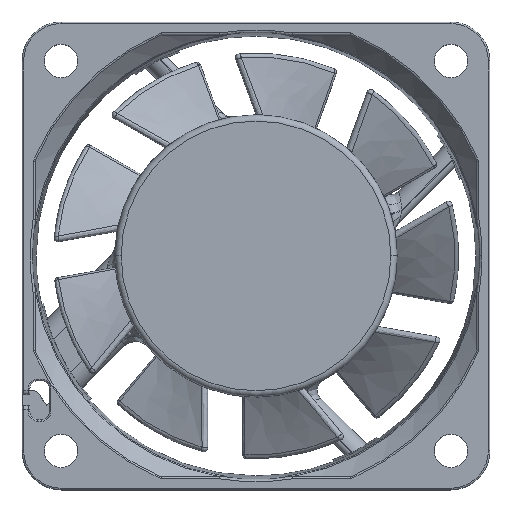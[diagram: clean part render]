
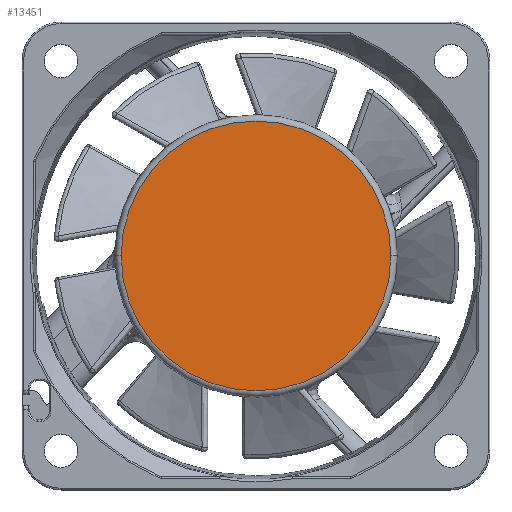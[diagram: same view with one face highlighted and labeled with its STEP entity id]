
A CAD part, top view. The second image highlights one B-rep face of the part: STEP entity #13451.
In plain terms, the highlighted planar face has unit normal (0, 0, 1).
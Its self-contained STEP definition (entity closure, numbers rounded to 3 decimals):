
#336 = EDGE_CURVE ( 'NONE', #6873, #14379, #11697, .T. ) ;
#1169 = DIRECTION ( 'NONE',  ( -1., 0., 0. ) ) ;
#2740 = CARTESIAN_POINT ( 'NONE',  ( 0., 0., 14.75 ) ) ;
#3228 = CIRCLE ( 'NONE', #6035, 17.3 ) ;
#3354 = DIRECTION ( 'NONE',  ( 0., 0., 1. ) ) ;
#3548 = CARTESIAN_POINT ( 'NONE',  ( -17.3, 0., 14.75 ) ) ;
#3677 = DIRECTION ( 'NONE',  ( 0., 0., -1. ) ) ;
#4707 = CARTESIAN_POINT ( 'NONE',  ( 17.3, 0., 14.75 ) ) ;
#5505 = AXIS2_PLACEMENT_3D ( 'NONE', #12553, #3354, #14269 ) ;
#6035 = AXIS2_PLACEMENT_3D ( 'NONE', #13023, #3677, #14616 ) ;
#6873 = VERTEX_POINT ( 'NONE', #3548 ) ;
#7991 = PLANE ( 'NONE',  #5505 ) ;
#8815 = EDGE_LOOP ( 'NONE', ( #17227, #8963 ) ) ;
#8963 = ORIENTED_EDGE ( 'NONE', *, *, #19435, .F. ) ;
#10148 = FACE_OUTER_BOUND ( 'NONE', #8815, .T. ) ;
#11697 = CIRCLE ( 'NONE', #16187, 17.3 ) ;
#12093 = DIRECTION ( 'NONE',  ( 0., 0., -1. ) ) ;
#12553 = CARTESIAN_POINT ( 'NONE',  ( 0., 0., 14.75 ) ) ;
#13023 = CARTESIAN_POINT ( 'NONE',  ( 0., 0., 14.75 ) ) ;
#13451 = ADVANCED_FACE ( 'NONE', ( #10148 ), #7991, .T. ) ;
#14269 = DIRECTION ( 'NONE',  ( 1., 0., 0. ) ) ;
#14379 = VERTEX_POINT ( 'NONE', #4707 ) ;
#14616 = DIRECTION ( 'NONE',  ( -1., 0., 0. ) ) ;
#16187 = AXIS2_PLACEMENT_3D ( 'NONE', #2740, #12093, #1169 ) ;
#17227 = ORIENTED_EDGE ( 'NONE', *, *, #336, .F. ) ;
#19435 = EDGE_CURVE ( 'NONE', #14379, #6873, #3228, .T. ) ;
